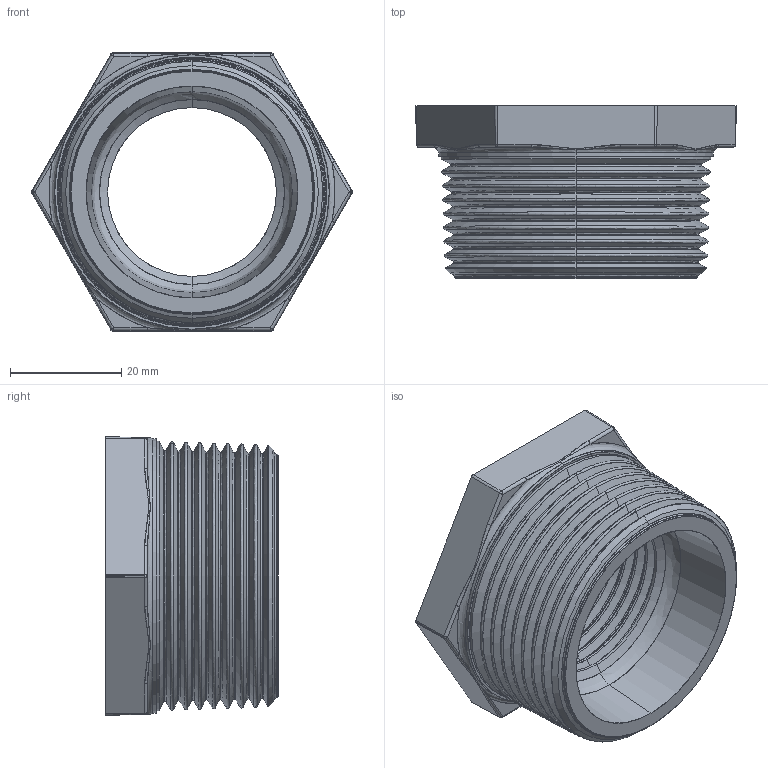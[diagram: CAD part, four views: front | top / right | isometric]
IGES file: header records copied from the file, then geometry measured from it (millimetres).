
Start section: SolidWorks IGES file using analytic representation for surfaces
Global section: file name: C:\Users\Joel Rosa\Desktop\Tubulação\12-01-OK\12-01-041.IGS; native system: SolidWorks 2011; preprocessor: SolidWorks 2011; author: Joel Rosa; date: 121203.200356; units: millimetre
Bounding box: 57.58 x 31 x 50 mm (x, y, z)
Surface area: 13532.3 mm2 (no closed solid volume)
Topology: 0 solids, 0 shells, 337 faces, 2611 edges, 2611 vertices
Faces by surface type: bspline 234, revolution 103
